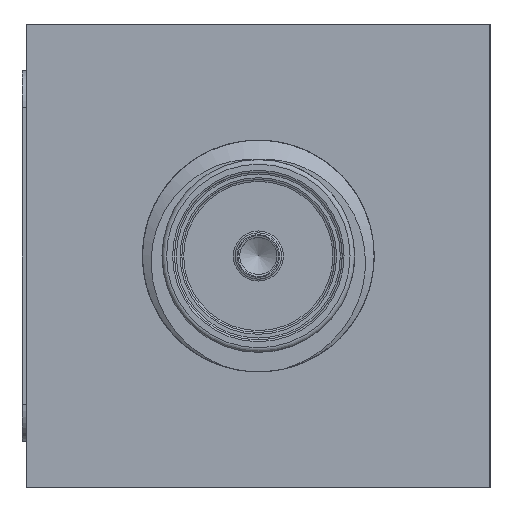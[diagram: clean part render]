
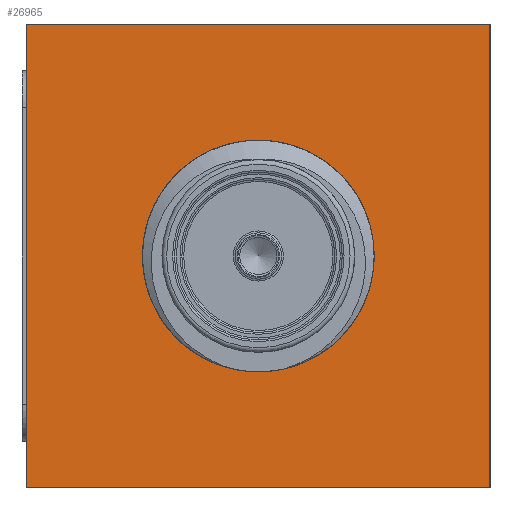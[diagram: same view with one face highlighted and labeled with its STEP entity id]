
A CAD part, left-side view. The second image highlights one B-rep face of the part: STEP entity #26965.
In plain terms, the highlighted planar face has unit normal (-1, 0, 0).
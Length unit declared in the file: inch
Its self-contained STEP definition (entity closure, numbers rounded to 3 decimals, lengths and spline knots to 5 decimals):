
#640 = EDGE_CURVE ( 'NONE', #25509, #35353, #27718, .T. ) ;
#9120 = LINE ( 'NONE', #37729, #74110 ) ;
#11675 = AXIS2_PLACEMENT_3D ( 'NONE', #35939, #18240, #59008 ) ;
#12442 = ORIENTED_EDGE ( 'NONE', *, *, #18785, .F. ) ;
#14576 = EDGE_CURVE ( 'NONE', #35353, #36019, #38751, .T. ) ;
#18240 = DIRECTION ( 'NONE',  ( -1., 0., 0. ) ) ;
#18785 = EDGE_CURVE ( 'NONE', #25509, #50485, #9120, .T. ) ;
#20264 = CARTESIAN_POINT ( 'NONE',  ( -0.14415, 0.01388, 0.13027 ) ) ;
#20736 = DIRECTION ( 'NONE',  ( 0., -1., 0. ) ) ;
#22216 = ORIENTED_EDGE ( 'NONE', *, *, #14576, .T. ) ;
#23879 = FACE_OUTER_BOUND ( 'NONE', #42545, .T. ) ;
#25509 = VERTEX_POINT ( 'NONE', #73454 ) ;
#25679 = DIRECTION ( 'NONE',  ( 0., 0., -1. ) ) ;
#26965 = ADVANCED_FACE ( 'NONE', ( #23879 ), #69924, .T. ) ;
#27718 = LINE ( 'NONE', #40173, #67716 ) ;
#30566 = LINE ( 'NONE', #37355, #74304 ) ;
#34885 = ORIENTED_EDGE ( 'NONE', *, *, #43860, .F. ) ;
#35353 = VERTEX_POINT ( 'NONE', #47848 ) ;
#35939 = CARTESIAN_POINT ( 'NONE',  ( -0.14415, 0.51388, 0.63027 ) ) ;
#36019 = VERTEX_POINT ( 'NONE', #20264 ) ;
#37355 = CARTESIAN_POINT ( 'NONE',  ( -0.14415, 0.01388, 0.63027 ) ) ;
#37729 = CARTESIAN_POINT ( 'NONE',  ( -0.14415, 0.51388, 0.63027 ) ) ;
#38751 = LINE ( 'NONE', #73844, #57937 ) ;
#40173 = CARTESIAN_POINT ( 'NONE',  ( -0.14415, 0.51388, 0.63027 ) ) ;
#42545 = EDGE_LOOP ( 'NONE', ( #34885, #12442, #67476, #22216 ) ) ;
#43860 = EDGE_CURVE ( 'NONE', #50485, #36019, #30566, .T. ) ;
#47848 = CARTESIAN_POINT ( 'NONE',  ( -0.14415, 0.51388, 0.13027 ) ) ;
#50485 = VERTEX_POINT ( 'NONE', #55528 ) ;
#55528 = CARTESIAN_POINT ( 'NONE',  ( -0.14415, 0.01388, 0.63027 ) ) ;
#56499 = DIRECTION ( 'NONE',  ( 0., -1., 0. ) ) ;
#57937 = VECTOR ( 'NONE', #56499, 39.37008 ) ;
#59008 = DIRECTION ( 'NONE',  ( 0., 0., -1. ) ) ;
#67476 = ORIENTED_EDGE ( 'NONE', *, *, #640, .T. ) ;
#67709 = DIRECTION ( 'NONE',  ( 0., 0., -1. ) ) ;
#67716 = VECTOR ( 'NONE', #67709, 39.37008 ) ;
#69924 = PLANE ( 'NONE',  #11675 ) ;
#73454 = CARTESIAN_POINT ( 'NONE',  ( -0.14415, 0.51388, 0.63027 ) ) ;
#73844 = CARTESIAN_POINT ( 'NONE',  ( -0.14415, 0.51388, 0.13027 ) ) ;
#74110 = VECTOR ( 'NONE', #20736, 39.37008 ) ;
#74304 = VECTOR ( 'NONE', #25679, 39.37008 ) ;
